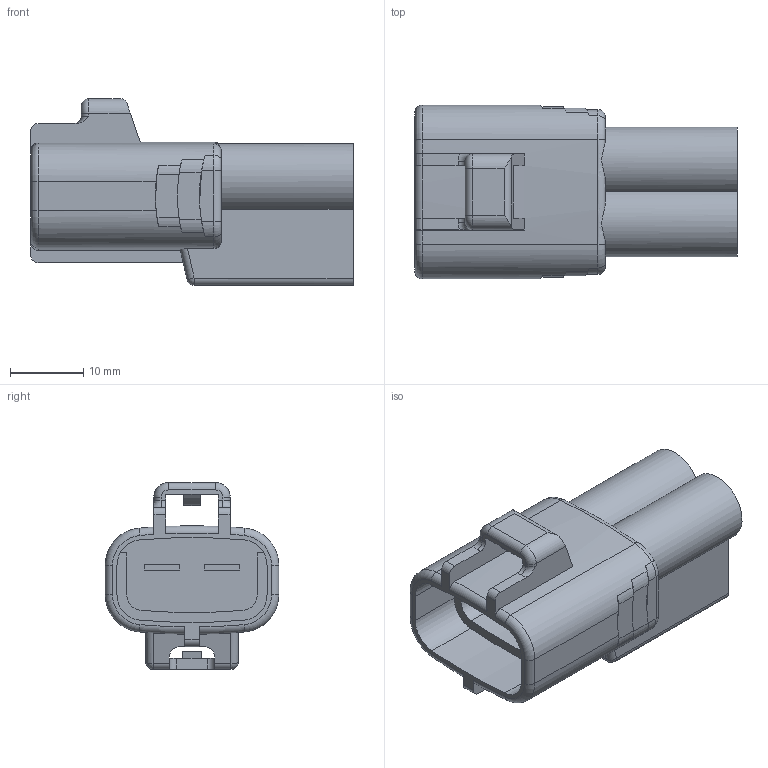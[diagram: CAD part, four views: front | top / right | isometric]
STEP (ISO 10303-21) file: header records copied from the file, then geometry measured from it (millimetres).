
FILE_DESCRIPTION(('CATIA V5 STEP Exchange'),'2;1');
FILE_NAME('N:\C-DAM_MyDesk\ENV\900093\6188-0259.stp','2013-08-19T10:32:46+00:00',('none'),('none'),'CATIA Version 5 Release 20 SP 4 (IN-10)','CATIA V5 STEP AP203','none');
FILE_SCHEMA(('CONFIG_CONTROL_DESIGN'));
Length unit declared in the file: millimetre
Products named in the file (1): 6188-0259
Bounding box: 44 x 23.7 x 25.5 mm (x, y, z)
Volume: 10162.7 mm3; surface area: 5376.8 mm2
Topology: 1 solids, 1 shells, 174 faces, 479 edges, 306 vertices
Faces by surface type: plane 81, cylinder 67, torus 24, sphere 2
Entity records: 5540 total; most frequent: CARTESIAN_POINT 1319, ORIENTED_EDGE 954, DIRECTION 713, EDGE_CURVE 477, VERTEX_POINT 306, AXIS2_PLACEMENT_3D 298, VECTOR 267, LINE 267
